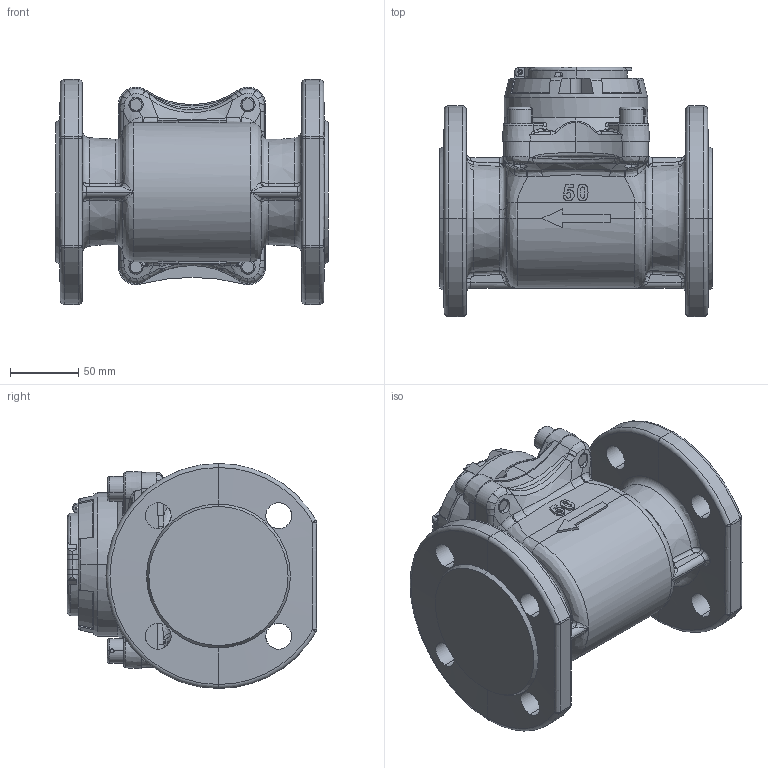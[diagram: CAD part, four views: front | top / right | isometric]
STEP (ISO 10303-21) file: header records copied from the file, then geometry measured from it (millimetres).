
FILE_DESCRIPTION (( 'STEP AP214' ), '1' );
FILE_NAME ('MWN50 IP65 NKO.STEP', '2025-07-09T10:32:05', ( '' ), ( '' ), 'SwSTEP 2.0', 'SolidWorks 2019', '' );
FILE_SCHEMA (( 'AUTOMOTIVE_DESIGN' ));
Length unit declared in the file: millimetre
Products named in the file (1): MWN50 IP65 NKO
Bounding box: 200 x 182.8 x 165 mm (x, y, z)
Volume: 2461253.7 mm3; surface area: 212198.6 mm2
Topology: 3 solids, 7 shells, 1054 faces, 2729 edges, 1698 vertices
Faces by surface type: plane 371, bspline 341, cylinder 184, torus 71, cone 69, sphere 18
Entity records: 61072 total; most frequent: CARTESIAN_POINT 26359, ORIENTED_EDGE 5396, DIRECTION 3932, EDGE_CURVE 2698, VERTEX_POINT 1698, AXIS2_PLACEMENT_3D 1400, EDGE_LOOP 1138, VECTOR 1132
